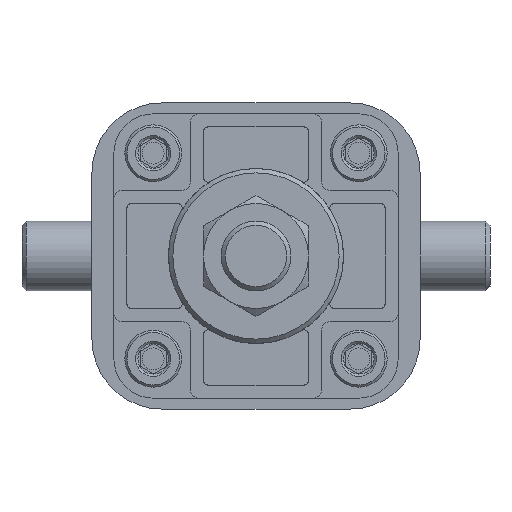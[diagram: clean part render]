
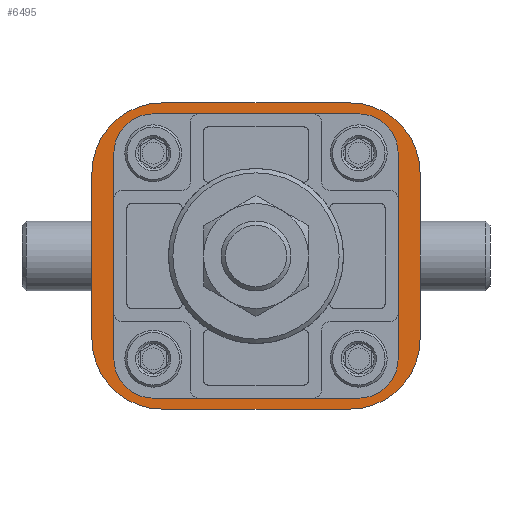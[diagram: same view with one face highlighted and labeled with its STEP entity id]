
A CAD part, front view. The second image highlights one B-rep face of the part: STEP entity #6495.
In plain terms, the highlighted planar face has unit normal (0, -1, 0).
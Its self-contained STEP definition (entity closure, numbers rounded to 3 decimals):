
#428=LINE('',#9879,#770);
#432=LINE('',#9890,#774);
#438=LINE('',#9904,#780);
#440=LINE('',#9910,#782);
#770=VECTOR('',#8409,1000.);
#774=VECTOR('',#8417,1000.);
#780=VECTOR('',#8425,1000.);
#782=VECTOR('',#8431,1000.);
#2126=ORIENTED_EDGE('',*,*,#2789,.F.);
#2127=ORIENTED_EDGE('',*,*,#2790,.F.);
#2128=ORIENTED_EDGE('',*,*,#2791,.F.);
#2129=ORIENTED_EDGE('',*,*,#2792,.F.);
#2130=ORIENTED_EDGE('',*,*,#2793,.T.);
#2131=ORIENTED_EDGE('',*,*,#2773,.F.);
#2132=ORIENTED_EDGE('',*,*,#2794,.T.);
#2133=ORIENTED_EDGE('',*,*,#2767,.F.);
#2134=ORIENTED_EDGE('',*,*,#2795,.T.);
#2135=ORIENTED_EDGE('',*,*,#2762,.F.);
#2136=ORIENTED_EDGE('',*,*,#2796,.T.);
#2137=ORIENTED_EDGE('',*,*,#2776,.F.);
#2138=ORIENTED_EDGE('',*,*,#2797,.T.);
#2762=EDGE_CURVE('',#3213,#3214,#428,.T.);
#2767=EDGE_CURVE('',#3218,#3219,#432,.T.);
#2773=EDGE_CURVE('',#3224,#3225,#438,.T.);
#2776=EDGE_CURVE('',#3227,#3228,#440,.T.);
#2789=EDGE_CURVE('',#3236,#3236,#3487,.F.);
#2790=EDGE_CURVE('',#3237,#3237,#3488,.F.);
#2791=EDGE_CURVE('',#3238,#3238,#3489,.F.);
#2792=EDGE_CURVE('',#3239,#3239,#3490,.F.);
#2793=EDGE_CURVE('',#3240,#3240,#3491,.T.);
#2794=EDGE_CURVE('',#3224,#3219,#3492,.F.);
#2795=EDGE_CURVE('',#3218,#3214,#3493,.F.);
#2796=EDGE_CURVE('',#3213,#3228,#3494,.F.);
#2797=EDGE_CURVE('',#3227,#3225,#3495,.F.);
#3213=VERTEX_POINT('',#9880);
#3214=VERTEX_POINT('',#9881);
#3218=VERTEX_POINT('',#9891);
#3219=VERTEX_POINT('',#9892);
#3224=VERTEX_POINT('',#9903);
#3225=VERTEX_POINT('',#9905);
#3227=VERTEX_POINT('',#9911);
#3228=VERTEX_POINT('',#9912);
#3236=VERTEX_POINT('',#9935);
#3237=VERTEX_POINT('',#9937);
#3238=VERTEX_POINT('',#9939);
#3239=VERTEX_POINT('',#9941);
#3240=VERTEX_POINT('',#9943);
#3487=CIRCLE('',#7056,2.5);
#3488=CIRCLE('',#7057,2.5);
#3489=CIRCLE('',#7058,2.5);
#3490=CIRCLE('',#7059,2.5);
#3491=CIRCLE('',#7060,28.);
#3492=CIRCLE('',#7061,16.);
#3493=CIRCLE('',#7062,16.);
#3494=CIRCLE('',#7063,16.);
#3495=CIRCLE('',#7064,16.);
#3856=EDGE_LOOP('',(#2126));
#3857=EDGE_LOOP('',(#2127));
#3858=EDGE_LOOP('',(#2128));
#3859=EDGE_LOOP('',(#2129));
#3860=EDGE_LOOP('',(#2130));
#3861=EDGE_LOOP('',(#2131,#2132,#2133,#2134,#2135,#2136,#2137,#2138));
#4242=FACE_BOUND('',#3856,.T.);
#4243=FACE_BOUND('',#3857,.T.);
#4244=FACE_BOUND('',#3858,.T.);
#4245=FACE_BOUND('',#3859,.T.);
#4246=FACE_BOUND('',#3860,.T.);
#4247=FACE_BOUND('',#3861,.T.);
#4410=PLANE('',#7055);
#6495=ADVANCED_FACE('',(#4242,#4243,#4244,#4245,#4246,#4247),#4410,.F.);
#7055=AXIS2_PLACEMENT_3D('',#9933,#8455,#8456);
#7056=AXIS2_PLACEMENT_3D('',#9934,#8457,#8458);
#7057=AXIS2_PLACEMENT_3D('',#9936,#8459,#8460);
#7058=AXIS2_PLACEMENT_3D('',#9938,#8461,#8462);
#7059=AXIS2_PLACEMENT_3D('',#9940,#8463,#8464);
#7060=AXIS2_PLACEMENT_3D('',#9942,#8465,#8466);
#7061=AXIS2_PLACEMENT_3D('',#9944,#8467,#8468);
#7062=AXIS2_PLACEMENT_3D('',#9945,#8469,#8470);
#7063=AXIS2_PLACEMENT_3D('',#9946,#8471,#8472);
#7064=AXIS2_PLACEMENT_3D('',#9947,#8473,#8474);
#8409=DIRECTION('',(-1.,0.,0.));
#8417=DIRECTION('',(0.,0.,1.));
#8425=DIRECTION('',(1.,0.,0.));
#8431=DIRECTION('',(0.,0.,-1.));
#8455=DIRECTION('',(0.,1.,0.));
#8456=DIRECTION('',(0.,0.,1.));
#8457=DIRECTION('',(0.,1.,0.));
#8458=DIRECTION('',(0.,0.,1.));
#8459=DIRECTION('',(0.,1.,0.));
#8460=DIRECTION('',(0.,0.,1.));
#8461=DIRECTION('',(0.,1.,0.));
#8462=DIRECTION('',(0.,0.,1.));
#8463=DIRECTION('',(0.,1.,0.));
#8464=DIRECTION('',(0.,0.,1.));
#8465=DIRECTION('',(0.,1.,0.));
#8466=DIRECTION('',(0.,0.,1.));
#8467=DIRECTION('',(0.,1.,0.));
#8468=DIRECTION('',(0.,0.,1.));
#8469=DIRECTION('',(0.,1.,0.));
#8470=DIRECTION('',(0.,0.,1.));
#8471=DIRECTION('',(0.,1.,0.));
#8472=DIRECTION('',(0.,0.,1.));
#8473=DIRECTION('',(0.,1.,0.));
#8474=DIRECTION('',(0.,0.,1.));
#9879=CARTESIAN_POINT('',(45.,-15.,-35.));
#9880=CARTESIAN_POINT('',(21.5,-15.,-35.));
#9881=CARTESIAN_POINT('',(-21.5,-15.,-35.));
#9890=CARTESIAN_POINT('',(-37.5,-15.,-40.5));
#9891=CARTESIAN_POINT('',(-37.5,-15.,-19.));
#9892=CARTESIAN_POINT('',(-37.5,-15.,19.));
#9903=CARTESIAN_POINT('',(-21.5,-15.,35.));
#9904=CARTESIAN_POINT('',(-45.,-15.,35.));
#9905=CARTESIAN_POINT('',(21.5,-15.,35.));
#9910=CARTESIAN_POINT('',(37.5,-15.,40.5));
#9911=CARTESIAN_POINT('',(37.5,-15.,19.));
#9912=CARTESIAN_POINT('',(37.5,-15.,-19.));
#9933=CARTESIAN_POINT('',(0.,-15.,0.));
#9934=CARTESIAN_POINT('',(23.5,-15.,-23.5));
#9935=CARTESIAN_POINT('',(23.5,-15.,-21.));
#9936=CARTESIAN_POINT('',(-23.5,-15.,-23.5));
#9937=CARTESIAN_POINT('',(-23.5,-15.,-21.));
#9938=CARTESIAN_POINT('',(-23.5,-15.,23.5));
#9939=CARTESIAN_POINT('',(-23.5,-15.,26.));
#9940=CARTESIAN_POINT('',(23.5,-15.,23.5));
#9941=CARTESIAN_POINT('',(23.5,-15.,26.));
#9942=CARTESIAN_POINT('',(0.,-15.,0.));
#9943=CARTESIAN_POINT('',(0.,-15.,28.));
#9944=CARTESIAN_POINT('',(-21.5,-15.,19.));
#9945=CARTESIAN_POINT('',(-21.5,-15.,-19.));
#9946=CARTESIAN_POINT('',(21.5,-15.,-19.));
#9947=CARTESIAN_POINT('',(21.5,-15.,19.));
